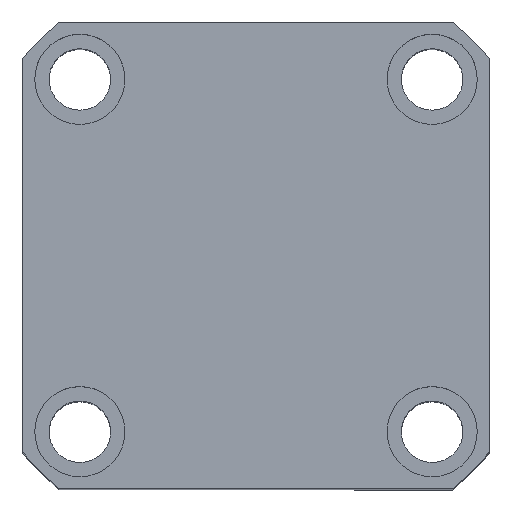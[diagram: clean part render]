
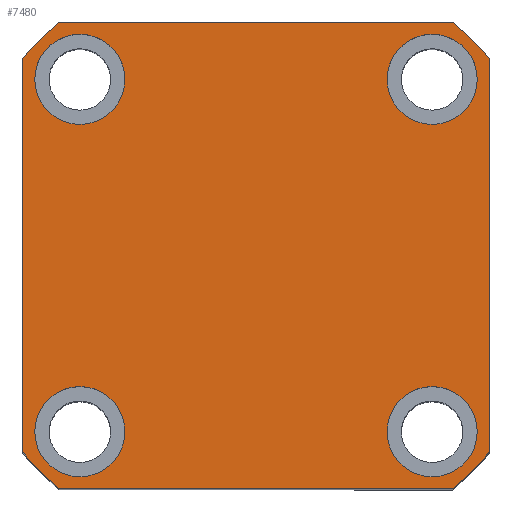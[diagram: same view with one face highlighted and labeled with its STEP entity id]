
A CAD part, top view. The second image highlights one B-rep face of the part: STEP entity #7480.
In plain terms, the highlighted planar face has unit normal (0, 0, 1) as drawn and (0, 0, -1) by its records, which use the part's own axes.
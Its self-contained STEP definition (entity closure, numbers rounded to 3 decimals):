
#37 = CIRCLE ( 'NONE', #17470, 74.5 ) ;
#446 = CARTESIAN_POINT ( 'NONE',  ( -57., 57., 0. ) ) ;
#476 = VERTEX_POINT ( 'NONE', #18469 ) ;
#1148 = LINE ( 'NONE', #15396, #8550 ) ;
#1185 = CIRCLE ( 'NONE', #10437, 74.5 ) ;
#1202 = EDGE_CURVE ( 'NONE', #17440, #1360, #3703, .T. ) ;
#1245 = DIRECTION ( 'NONE',  ( 0., 0., 1. ) ) ;
#1360 = VERTEX_POINT ( 'NONE', #10662 ) ;
#1649 = ORIENTED_EDGE ( 'NONE', *, *, #2721, .F. ) ;
#1741 = CARTESIAN_POINT ( 'NONE',  ( 43., -43., 0. ) ) ;
#1875 = PLANE ( 'NONE',  #17112 ) ;
#2043 = EDGE_CURVE ( 'NONE', #5091, #4535, #11345, .T. ) ;
#2053 = DIRECTION ( 'NONE',  ( 0., 0., 1. ) ) ;
#2134 = ORIENTED_EDGE ( 'NONE', *, *, #17044, .F. ) ;
#2202 = CARTESIAN_POINT ( 'NONE',  ( 57., 57., 0. ) ) ;
#2235 = AXIS2_PLACEMENT_3D ( 'NONE', #6623, #17692, #8192 ) ;
#2239 = CARTESIAN_POINT ( 'NONE',  ( -57., -57., 0. ) ) ;
#2401 = ORIENTED_EDGE ( 'NONE', *, *, #2961, .F. ) ;
#2484 = CARTESIAN_POINT ( 'NONE',  ( -32., 43., 0. ) ) ;
#2547 = FACE_BOUND ( 'NONE', #11555, .T. ) ;
#2565 = CARTESIAN_POINT ( 'NONE',  ( 54., -43., 0. ) ) ;
#2582 = LINE ( 'NONE', #2202, #9977 ) ;
#2721 = EDGE_CURVE ( 'NONE', #20273, #17381, #10588, .T. ) ;
#2740 = AXIS2_PLACEMENT_3D ( 'NONE', #14528, #5034, #16110 ) ;
#2785 = CIRCLE ( 'NONE', #2740, 11. ) ;
#2961 = EDGE_CURVE ( 'NONE', #12040, #17440, #1185, .T. ) ;
#2985 = CARTESIAN_POINT ( 'NONE',  ( -43., 43., 0. ) ) ;
#3020 = DIRECTION ( 'NONE',  ( -1., 0., 0. ) ) ;
#3347 = DIRECTION ( 'NONE',  ( -1., 0., 0. ) ) ;
#3498 = ORIENTED_EDGE ( 'NONE', *, *, #10790, .F. ) ;
#3572 = CARTESIAN_POINT ( 'NONE',  ( -57., -47.971, 0. ) ) ;
#3703 = LINE ( 'NONE', #2239, #20010 ) ;
#3784 = DIRECTION ( 'NONE',  ( 0., 1., 0. ) ) ;
#3906 = EDGE_CURVE ( 'NONE', #1360, #16084, #11548, .T. ) ;
#4022 = CIRCLE ( 'NONE', #17513, 11. ) ;
#4120 = ORIENTED_EDGE ( 'NONE', *, *, #8936, .F. ) ;
#4535 = VERTEX_POINT ( 'NONE', #16782 ) ;
#4574 = DIRECTION ( 'NONE',  ( -1., 0., 0. ) ) ;
#4923 = CARTESIAN_POINT ( 'NONE',  ( -32., -43., 0. ) ) ;
#4937 = EDGE_LOOP ( 'NONE', ( #4120, #18977, #17836, #20426, #2401, #8240, #12357, #1649 ) ) ;
#5034 = DIRECTION ( 'NONE',  ( 0., 0., -1. ) ) ;
#5091 = VERTEX_POINT ( 'NONE', #5769 ) ;
#5311 = ORIENTED_EDGE ( 'NONE', *, *, #12120, .F. ) ;
#5502 = EDGE_CURVE ( 'NONE', #15472, #12040, #1148, .T. ) ;
#5652 = ORIENTED_EDGE ( 'NONE', *, *, #2043, .F. ) ;
#5769 = CARTESIAN_POINT ( 'NONE',  ( 32., 43., 0. ) ) ;
#6272 = FACE_OUTER_BOUND ( 'NONE', #4937, .T. ) ;
#6371 = VERTEX_POINT ( 'NONE', #4923 ) ;
#6404 = VECTOR ( 'NONE', #3020, 1000. ) ;
#6484 = ORIENTED_EDGE ( 'NONE', *, *, #9188, .F. ) ;
#6586 = CARTESIAN_POINT ( 'NONE',  ( 0., 0., 0. ) ) ;
#6623 = CARTESIAN_POINT ( 'NONE',  ( 0., 0., 0. ) ) ;
#6708 = VERTEX_POINT ( 'NONE', #2565 ) ;
#6951 = CIRCLE ( 'NONE', #7520, 11. ) ;
#6962 = ORIENTED_EDGE ( 'NONE', *, *, #7290, .F. ) ;
#7068 = ORIENTED_EDGE ( 'NONE', *, *, #8255, .F. ) ;
#7136 = DIRECTION ( 'NONE',  ( 1., 0., 0. ) ) ;
#7290 = EDGE_CURVE ( 'NONE', #6371, #7354, #4022, .T. ) ;
#7354 = VERTEX_POINT ( 'NONE', #17373 ) ;
#7414 = EDGE_CURVE ( 'NONE', #6708, #476, #19826, .T. ) ;
#7480 = ADVANCED_FACE ( 'NONE', ( #2547, #18862, #10955, #10455, #6272 ), #1875, .F. ) ;
#7520 = AXIS2_PLACEMENT_3D ( 'NONE', #8086, #19139, #9674 ) ;
#7539 = CIRCLE ( 'NONE', #17994, 11. ) ;
#7580 = AXIS2_PLACEMENT_3D ( 'NONE', #2985, #14063, #4574 ) ;
#7676 = DIRECTION ( 'NONE',  ( 0., 0., -1. ) ) ;
#8086 = CARTESIAN_POINT ( 'NONE',  ( 43., -43., 0. ) ) ;
#8192 = DIRECTION ( 'NONE',  ( 1., 0., 0. ) ) ;
#8217 = DIRECTION ( 'NONE',  ( 1., 0., 0. ) ) ;
#8240 = ORIENTED_EDGE ( 'NONE', *, *, #5502, .F. ) ;
#8255 = EDGE_CURVE ( 'NONE', #4535, #5091, #2785, .T. ) ;
#8451 = CARTESIAN_POINT ( 'NONE',  ( -43., -43., 0. ) ) ;
#8550 = VECTOR ( 'NONE', #15335, 1000. ) ;
#8605 = AXIS2_PLACEMENT_3D ( 'NONE', #1741, #12815, #3347 ) ;
#8640 = CARTESIAN_POINT ( 'NONE',  ( -43., 43., 0. ) ) ;
#8927 = CARTESIAN_POINT ( 'NONE',  ( 0., 0., 0. ) ) ;
#8936 = EDGE_CURVE ( 'NONE', #9156, #20273, #37, .T. ) ;
#9156 = VERTEX_POINT ( 'NONE', #14283 ) ;
#9188 = EDGE_CURVE ( 'NONE', #476, #6708, #6951, .T. ) ;
#9212 = ORIENTED_EDGE ( 'NONE', *, *, #7414, .F. ) ;
#9674 = DIRECTION ( 'NONE',  ( -1., 0., 0. ) ) ;
#9798 = CARTESIAN_POINT ( 'NONE',  ( -47.971, 57., 0. ) ) ;
#9977 = VECTOR ( 'NONE', #3784, 1000. ) ;
#10061 = DIRECTION ( 'NONE',  ( -1., 0., 0. ) ) ;
#10243 = DIRECTION ( 'NONE',  ( -1., 0., 0. ) ) ;
#10437 = AXIS2_PLACEMENT_3D ( 'NONE', #11525, #2053, #13123 ) ;
#10455 = FACE_BOUND ( 'NONE', #10710, .T. ) ;
#10463 = VERTEX_POINT ( 'NONE', #13246 ) ;
#10514 = EDGE_LOOP ( 'NONE', ( #5652, #7068 ) ) ;
#10523 = DIRECTION ( 'NONE',  ( 1., 0., 0. ) ) ;
#10588 = LINE ( 'NONE', #446, #6404 ) ;
#10662 = CARTESIAN_POINT ( 'NONE',  ( 47.971, -57., 0. ) ) ;
#10710 = EDGE_LOOP ( 'NONE', ( #3498, #2134 ) ) ;
#10719 = CARTESIAN_POINT ( 'NONE',  ( 0., 0., 0. ) ) ;
#10741 = CIRCLE ( 'NONE', #15787, 11. ) ;
#10790 = EDGE_CURVE ( 'NONE', #10463, #14234, #7539, .T. ) ;
#10955 = FACE_BOUND ( 'NONE', #10514, .T. ) ;
#11345 = CIRCLE ( 'NONE', #15489, 11. ) ;
#11525 = CARTESIAN_POINT ( 'NONE',  ( 0., 0., 0. ) ) ;
#11547 = AXIS2_PLACEMENT_3D ( 'NONE', #10719, #1245, #12321 ) ;
#11548 = CIRCLE ( 'NONE', #2235, 74.5 ) ;
#11555 = EDGE_LOOP ( 'NONE', ( #5311, #6962 ) ) ;
#12040 = VERTEX_POINT ( 'NONE', #3572 ) ;
#12120 = EDGE_CURVE ( 'NONE', #7354, #6371, #10741, .T. ) ;
#12321 = DIRECTION ( 'NONE',  ( 1., 0., 0. ) ) ;
#12357 = ORIENTED_EDGE ( 'NONE', *, *, #16343, .F. ) ;
#12815 = DIRECTION ( 'NONE',  ( 0., 0., -1. ) ) ;
#13069 = CARTESIAN_POINT ( 'NONE',  ( -57., 47.971, 0. ) ) ;
#13123 = DIRECTION ( 'NONE',  ( 1., 0., 0. ) ) ;
#13246 = CARTESIAN_POINT ( 'NONE',  ( -54., 43., 0. ) ) ;
#14063 = DIRECTION ( 'NONE',  ( 0., 0., -1. ) ) ;
#14234 = VERTEX_POINT ( 'NONE', #2484 ) ;
#14283 = CARTESIAN_POINT ( 'NONE',  ( 57., 47.971, 0. ) ) ;
#14465 = CIRCLE ( 'NONE', #11547, 74.5 ) ;
#14528 = CARTESIAN_POINT ( 'NONE',  ( 43., 43., 0. ) ) ;
#14692 = CIRCLE ( 'NONE', #7580, 11. ) ;
#14839 = CARTESIAN_POINT ( 'NONE',  ( 57., -47.971, 0. ) ) ;
#15335 = DIRECTION ( 'NONE',  ( 0., -1., 0. ) ) ;
#15396 = CARTESIAN_POINT ( 'NONE',  ( -57., 57., 0. ) ) ;
#15472 = VERTEX_POINT ( 'NONE', #13069 ) ;
#15489 = AXIS2_PLACEMENT_3D ( 'NONE', #17223, #17157, #16182 ) ;
#15698 = EDGE_CURVE ( 'NONE', #16084, #9156, #2582, .T. ) ;
#15787 = AXIS2_PLACEMENT_3D ( 'NONE', #8451, #19499, #10061 ) ;
#16084 = VERTEX_POINT ( 'NONE', #14839 ) ;
#16110 = DIRECTION ( 'NONE',  ( -1., 0., 0. ) ) ;
#16182 = DIRECTION ( 'NONE',  ( -1., 0., 0. ) ) ;
#16343 = EDGE_CURVE ( 'NONE', #17381, #15472, #14465, .T. ) ;
#16782 = CARTESIAN_POINT ( 'NONE',  ( 54., 43., 0. ) ) ;
#17044 = EDGE_CURVE ( 'NONE', #14234, #10463, #14692, .T. ) ;
#17112 = AXIS2_PLACEMENT_3D ( 'NONE', #6586, #17713, #8217 ) ;
#17157 = DIRECTION ( 'NONE',  ( 0., 0., -1. ) ) ;
#17178 = CARTESIAN_POINT ( 'NONE',  ( -43., -43., 0. ) ) ;
#17223 = CARTESIAN_POINT ( 'NONE',  ( 43., 43., 0. ) ) ;
#17373 = CARTESIAN_POINT ( 'NONE',  ( -54., -43., 0. ) ) ;
#17381 = VERTEX_POINT ( 'NONE', #9798 ) ;
#17440 = VERTEX_POINT ( 'NONE', #17890 ) ;
#17470 = AXIS2_PLACEMENT_3D ( 'NONE', #8927, #19962, #10523 ) ;
#17513 = AXIS2_PLACEMENT_3D ( 'NONE', #17178, #7676, #18745 ) ;
#17692 = DIRECTION ( 'NONE',  ( 0., 0., 1. ) ) ;
#17713 = DIRECTION ( 'NONE',  ( 0., 0., 1. ) ) ;
#17719 = CARTESIAN_POINT ( 'NONE',  ( 47.971, 57., 0. ) ) ;
#17836 = ORIENTED_EDGE ( 'NONE', *, *, #3906, .F. ) ;
#17890 = CARTESIAN_POINT ( 'NONE',  ( -47.971, -57., 0. ) ) ;
#17994 = AXIS2_PLACEMENT_3D ( 'NONE', #8640, #19680, #10243 ) ;
#18469 = CARTESIAN_POINT ( 'NONE',  ( 32., -43., 0. ) ) ;
#18745 = DIRECTION ( 'NONE',  ( -1., 0., 0. ) ) ;
#18862 = FACE_BOUND ( 'NONE', #20335, .T. ) ;
#18977 = ORIENTED_EDGE ( 'NONE', *, *, #15698, .F. ) ;
#19139 = DIRECTION ( 'NONE',  ( 0., 0., -1. ) ) ;
#19499 = DIRECTION ( 'NONE',  ( 0., 0., -1. ) ) ;
#19680 = DIRECTION ( 'NONE',  ( 0., 0., -1. ) ) ;
#19826 = CIRCLE ( 'NONE', #8605, 11. ) ;
#19962 = DIRECTION ( 'NONE',  ( 0., 0., 1. ) ) ;
#20010 = VECTOR ( 'NONE', #7136, 1000. ) ;
#20273 = VERTEX_POINT ( 'NONE', #17719 ) ;
#20335 = EDGE_LOOP ( 'NONE', ( #6484, #9212 ) ) ;
#20426 = ORIENTED_EDGE ( 'NONE', *, *, #1202, .F. ) ;
